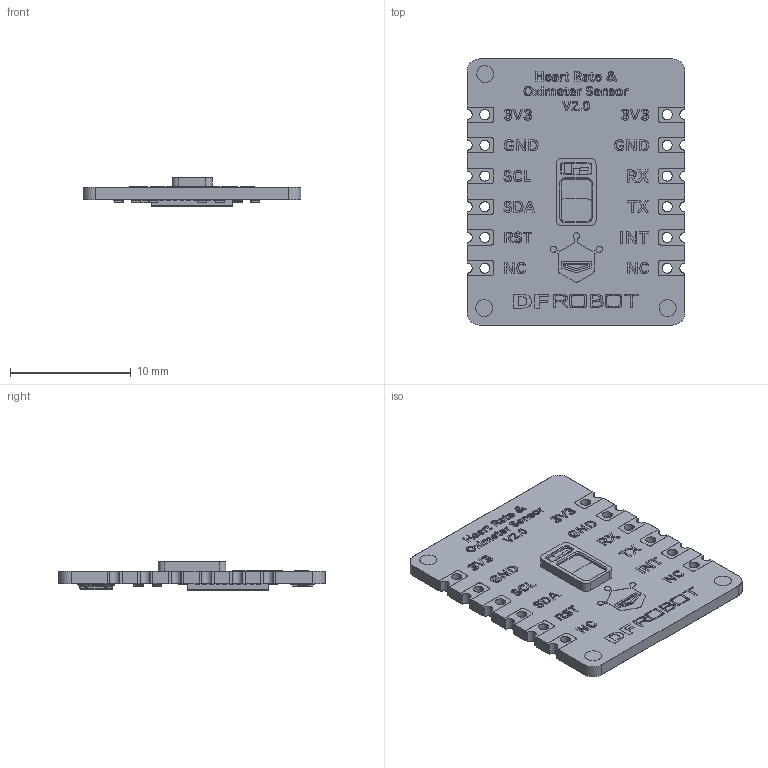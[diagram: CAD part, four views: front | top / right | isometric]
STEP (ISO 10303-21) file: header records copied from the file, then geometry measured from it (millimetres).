
FILE_DESCRIPTION(/* description */ (''),/* implementation_level */ '2;1');
FILE_NAME(/* name */ 'SEN0344',/* time_stamp */ '2021-09-16T09:39:37+08:00',/* author */ (''),/* organization */ (''),/* preprocessor_version */ 'ST-DEVELOPER v16.5',/* originating_system */ '',/* authorisation */ '');
FILE_SCHEMA (('AUTOMOTIVE_DESIGN'));
Products named in the file (1): Document
Bounding box: 18 x 22 x 2.38 mm (x, y, z)
Volume: 441.5 mm3; surface area: 2932.9 mm2
Topology: 168 solids, 267 shells, 4324 faces, 11117 edges, 7207 vertices
Faces by surface type: bspline 2955, plane 1369
Entity records: 185136 total; most frequent: CARTESIAN_POINT 119765, ORIENTED_EDGE 21576, EDGE_CURVE 11085, VERTEX_POINT 7207, B_SPLINE_CURVE_WITH_KNOTS 4774, EDGE_LOOP 4431, ADVANCED_FACE 4324, FACE_OUTER_BOUND 4324
